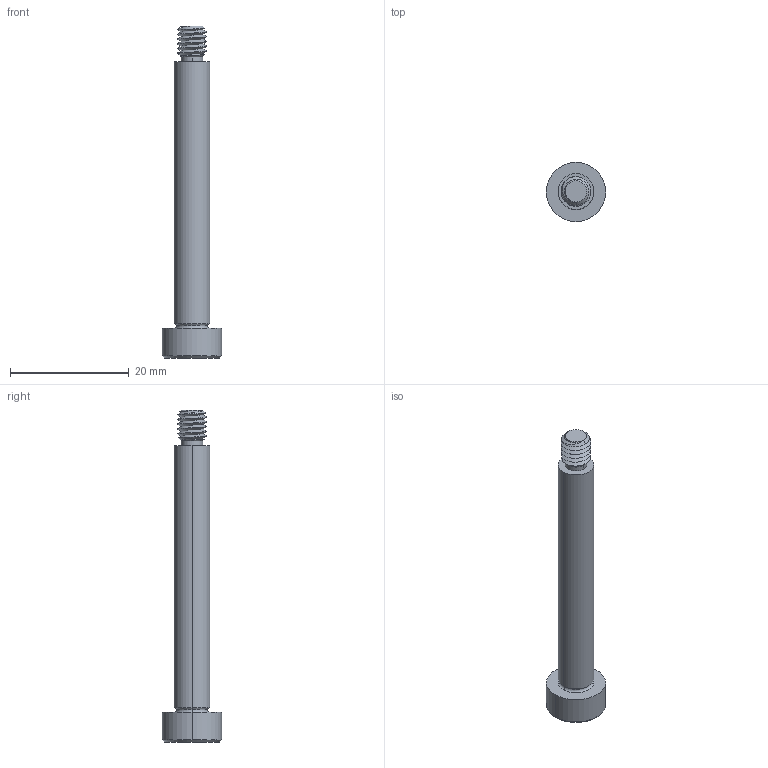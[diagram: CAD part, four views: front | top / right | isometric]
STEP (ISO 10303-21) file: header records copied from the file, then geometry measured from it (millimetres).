
FILE_DESCRIPTION (( 'STEP AP203' ), '1' );
FILE_NAME ('P0130.060-045-B2.step', '2021-11-09T21:28:33', ( '' ), ( '' ), 'SwSTEP 2.0', 'SolidWorks 2019', '' );
FILE_SCHEMA (( 'CONFIG_CONTROL_DESIGN' ));
Length unit declared in the file: millimetre
Products named in the file (1): P0130.060-045-B2
Bounding box: 10 x 10 x 56 mm (x, y, z)
Volume: 1717 mm3; surface area: 1335.8 mm2
Topology: 1 solids, 1 shells, 53 faces, 121 edges, 71 vertices
Faces by surface type: cylinder 17, plane 16, cone 14, torus 4, bspline 2
Entity records: 2367 total; most frequent: CARTESIAN_POINT 1186, ORIENTED_EDGE 238, DIRECTION 226, EDGE_CURVE 119, AXIS2_PLACEMENT_3D 92, VERTEX_POINT 71, EDGE_LOOP 56, ADVANCED_FACE 53
